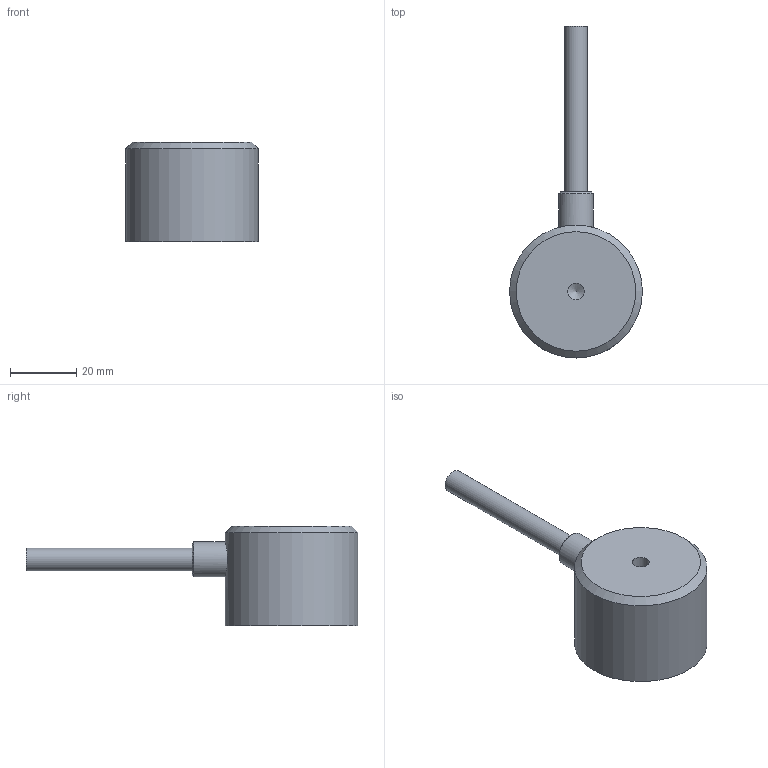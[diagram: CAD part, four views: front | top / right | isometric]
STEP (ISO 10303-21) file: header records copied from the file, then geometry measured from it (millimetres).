
FILE_DESCRIPTION(/* description */ (''),/* implementation_level */ '2;1');
FILE_NAME(/* name */ 'EMH-1-40Dx30H-S-DC24V.step',/* time_stamp */ '2023-12-15T11:43:21+09:00',/* author */ (''),/* organization */ (''),/* preprocessor_version */ 'ST-DEVELOPER v20',/* originating_system */ 'Autodesk Translation Framework v12.14.0.127',/* authorisation */ '');
FILE_SCHEMA (('AUTOMOTIVE_DESIGN { 1 0 10303 214 3 1 1 }'));
Length unit declared in the file: millimetre
Products named in the file (3): EMH-1-40Dx30H-S-DC24V; BODY; Cable
Assembly tree (2 placements, depth 2):
  EMH-1-40Dx30H-S-DC24V
    BODY
    Cable
Bounding box: 40 x 100 x 30 mm (x, y, z)
Volume: 39663.4 mm3; surface area: 7873.6 mm2
Topology: 2 solids, 2 shells, 16 faces, 27 edges, 18 vertices
Faces by surface type: plane 7, cylinder 6, cone 3
Full cylindrical faces by diameter (mm): 5.035 x1, 6.8 x1, 10.5 x1, 13 x1, 36 x1, 40 x1
Entity records: 526 total; most frequent: CARTESIAN_POINT 101, DIRECTION 79, ORIENTED_EDGE 52, AXIS2_PLACEMENT_3D 35, EDGE_CURVE 26, EDGE_LOOP 20, VERTEX_POINT 18, FACE_OUTER_BOUND 16
